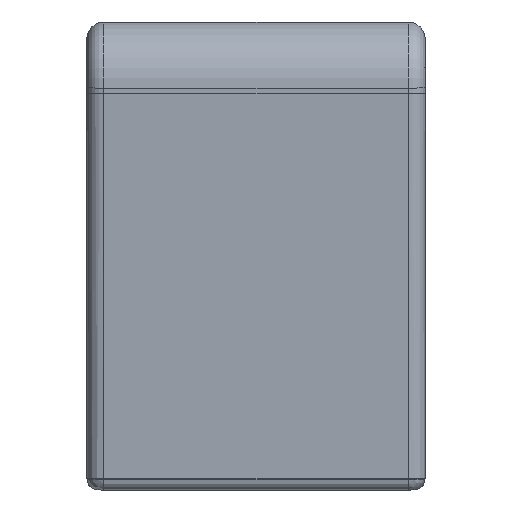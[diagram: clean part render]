
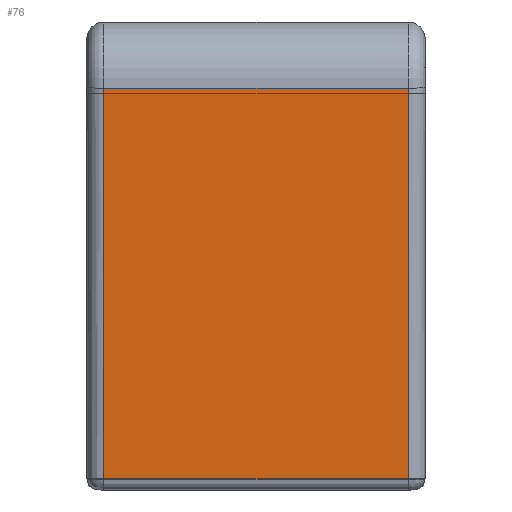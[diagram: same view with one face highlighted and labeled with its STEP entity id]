
A CAD part, left-side view. The second image highlights one B-rep face of the part: STEP entity #76.
In plain terms, the highlighted planar face has unit normal (-0.998, 0, -0.067).
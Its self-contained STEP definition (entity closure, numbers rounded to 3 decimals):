
#76 = ADVANCED_FACE ( 'NONE', ( #1155 ), #4425, .T. ) ;
#327 = EDGE_CURVE ( 'NONE', #3745, #3756, #791, .T. ) ;
#328 = EDGE_CURVE ( 'NONE', #3756, #3744, #788, .T. ) ;
#329 = EDGE_CURVE ( 'NONE', #3744, #3751, #783, .T. ) ;
#330 = EDGE_CURVE ( 'NONE', #3745, #3751, #779, .T. ) ;
#473 = EDGE_LOOP ( 'NONE', ( #1615, #1616, #1617, #1618 ) ) ;
#711 = AXIS2_PLACEMENT_3D ( 'NONE', #4426, #4427, #4428 ) ;
#778 = VECTOR ( 'NONE', #3198, 1000. ) ;
#779 = LINE ( 'NONE', #3197, #778 ) ;
#781 = VECTOR ( 'NONE', #3196, 1000. ) ;
#783 = LINE ( 'NONE', #3195, #781 ) ;
#786 = VECTOR ( 'NONE', #3194, 1000. ) ;
#788 = LINE ( 'NONE', #3193, #786 ) ;
#789 = VECTOR ( 'NONE', #3192, 1000. ) ;
#791 = LINE ( 'NONE', #3191, #789 ) ;
#1155 = FACE_OUTER_BOUND ( 'NONE', #473, .T. ) ;
#1615 = ORIENTED_EDGE ( 'NONE', *, *, #327, .T. ) ;
#1616 = ORIENTED_EDGE ( 'NONE', *, *, #328, .T. ) ;
#1617 = ORIENTED_EDGE ( 'NONE', *, *, #329, .T. ) ;
#1618 = ORIENTED_EDGE ( 'NONE', *, *, #330, .F. ) ;
#1952 = CARTESIAN_POINT ( 'NONE',  ( -518.063, -13.5, -6.067 ) ) ;
#1953 = CARTESIAN_POINT ( 'NONE',  ( -520.388, 13.5, 28.632 ) ) ;
#1959 = CARTESIAN_POINT ( 'NONE',  ( -520.388, -13.5, 28.632 ) ) ;
#1964 = CARTESIAN_POINT ( 'NONE',  ( -518.063, 13.5, -6.067 ) ) ;
#3191 = CARTESIAN_POINT ( 'NONE',  ( -518., 13.5, -7. ) ) ;
#3192 = DIRECTION ( 'NONE',  ( 0.067, 0., -0.998 ) ) ;
#3193 = CARTESIAN_POINT ( 'NONE',  ( -518.063, 15., -6.067 ) ) ;
#3194 = DIRECTION ( 'NONE',  ( 0., -1., 0. ) ) ;
#3195 = CARTESIAN_POINT ( 'NONE',  ( -520.388, -13.5, 28.632 ) ) ;
#3196 = DIRECTION ( 'NONE',  ( -0.067, 0., 0.998 ) ) ;
#3197 = CARTESIAN_POINT ( 'NONE',  ( -520.388, 15., 28.632 ) ) ;
#3198 = DIRECTION ( 'NONE',  ( 0., -1., 0. ) ) ;
#3744 = VERTEX_POINT ( 'NONE', #1952 ) ;
#3745 = VERTEX_POINT ( 'NONE', #1953 ) ;
#3751 = VERTEX_POINT ( 'NONE', #1959 ) ;
#3756 = VERTEX_POINT ( 'NONE', #1964 ) ;
#4425 = PLANE ( 'NONE',  #711 ) ;
#4426 = CARTESIAN_POINT ( 'NONE',  ( -518., 15., -7. ) ) ;
#4427 = DIRECTION ( 'NONE',  ( -0.998, 0., -0.067 ) ) ;
#4428 = DIRECTION ( 'NONE',  ( -0.067, 0., 0.998 ) ) ;
